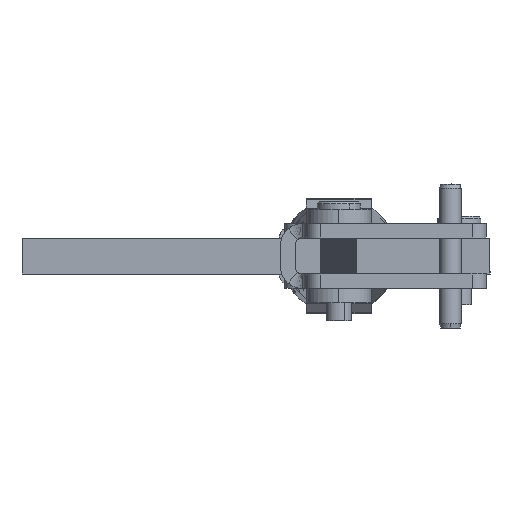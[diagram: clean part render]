
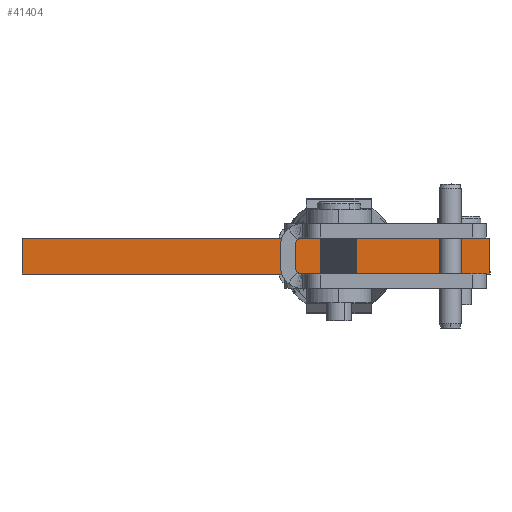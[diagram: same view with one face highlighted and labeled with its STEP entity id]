
A CAD part, front view. The second image highlights one B-rep face of the part: STEP entity #41404.
In plain terms, the highlighted planar face has unit normal (0, -1, 0).
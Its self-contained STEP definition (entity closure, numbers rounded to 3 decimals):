
#629 = CARTESIAN_POINT ( 'NONE',  ( 130., 0., 10. ) ) ;
#2640 = FACE_OUTER_BOUND ( 'NONE', #38832, .T. ) ;
#2648 = ORIENTED_EDGE ( 'NONE', *, *, #9889, .T. ) ;
#2991 = CARTESIAN_POINT ( 'NONE',  ( 0., 0., 0. ) ) ;
#3056 = DIRECTION ( 'NONE',  ( 0., 1., 0. ) ) ;
#4777 = LINE ( 'NONE', #18128, #18849 ) ;
#5211 = EDGE_CURVE ( 'NONE', #22158, #13243, #25040, .T. ) ;
#5403 = ORIENTED_EDGE ( 'NONE', *, *, #31640, .T. ) ;
#9889 = EDGE_CURVE ( 'NONE', #22158, #40385, #18694, .T. ) ;
#12138 = CARTESIAN_POINT ( 'NONE',  ( 0., 0., 10. ) ) ;
#13243 = VERTEX_POINT ( 'NONE', #629 ) ;
#13549 = LINE ( 'NONE', #34063, #23035 ) ;
#16406 = DIRECTION ( 'NONE',  ( 0., 0., -1. ) ) ;
#18128 = CARTESIAN_POINT ( 'NONE',  ( 130., 0., 10. ) ) ;
#18694 = LINE ( 'NONE', #20729, #31954 ) ;
#18849 = VECTOR ( 'NONE', #35115, 1000. ) ;
#19754 = CARTESIAN_POINT ( 'NONE',  ( 130., 0., 0. ) ) ;
#20729 = CARTESIAN_POINT ( 'NONE',  ( 0., 0., 10. ) ) ;
#22158 = VERTEX_POINT ( 'NONE', #24029 ) ;
#23035 = VECTOR ( 'NONE', #41043, 1000. ) ;
#23718 = ORIENTED_EDGE ( 'NONE', *, *, #30425, .F. ) ;
#24029 = CARTESIAN_POINT ( 'NONE',  ( 0., 0., 10. ) ) ;
#25040 = LINE ( 'NONE', #12138, #34090 ) ;
#28540 = DIRECTION ( 'NONE',  ( 1., 0., 0. ) ) ;
#30323 = AXIS2_PLACEMENT_3D ( 'NONE', #32128, #3056, #16406 ) ;
#30425 = EDGE_CURVE ( 'NONE', #13243, #33200, #4777, .T. ) ;
#31640 = EDGE_CURVE ( 'NONE', #40385, #33200, #13549, .T. ) ;
#31954 = VECTOR ( 'NONE', #35030, 1000. ) ;
#32128 = CARTESIAN_POINT ( 'NONE',  ( 0., 0., 10. ) ) ;
#33200 = VERTEX_POINT ( 'NONE', #19754 ) ;
#34063 = CARTESIAN_POINT ( 'NONE',  ( 0., 0., 0. ) ) ;
#34090 = VECTOR ( 'NONE', #28540, 1000. ) ;
#35030 = DIRECTION ( 'NONE',  ( 0., 0., -1. ) ) ;
#35115 = DIRECTION ( 'NONE',  ( 0., 0., -1. ) ) ;
#38832 = EDGE_LOOP ( 'NONE', ( #5403, #23718, #40126, #2648 ) ) ;
#40126 = ORIENTED_EDGE ( 'NONE', *, *, #5211, .F. ) ;
#40385 = VERTEX_POINT ( 'NONE', #2991 ) ;
#41043 = DIRECTION ( 'NONE',  ( 1., 0., 0. ) ) ;
#41404 = ADVANCED_FACE ( 'NONE', ( #2640 ), #42592, .F. ) ;
#42592 = PLANE ( 'NONE',  #30323 ) ;
